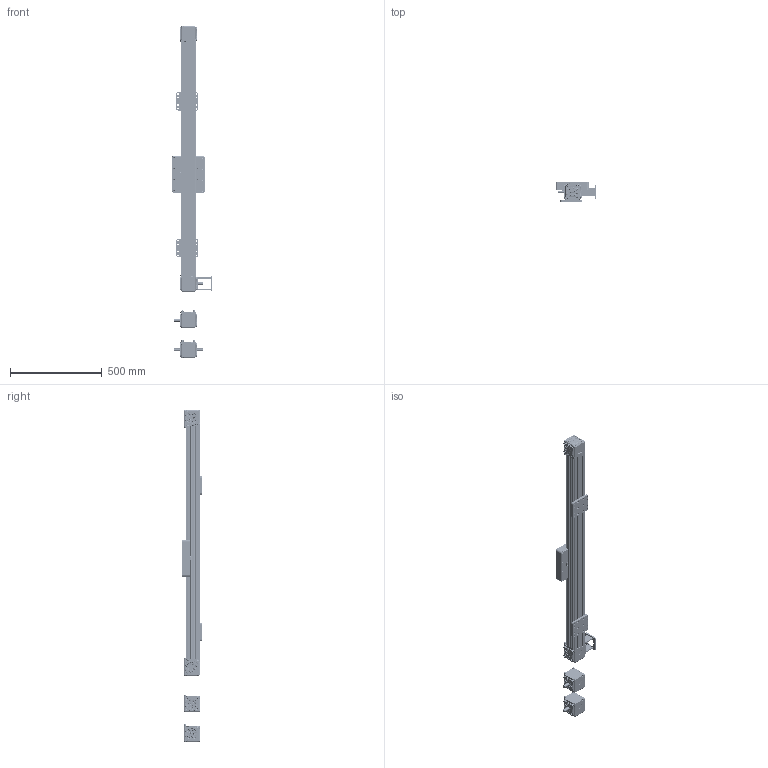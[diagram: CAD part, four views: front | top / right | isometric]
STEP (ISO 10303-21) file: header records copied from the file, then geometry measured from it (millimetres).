
FILE_DESCRIPTION (( 'STEP AP214' ), '1' );
FILE_NAME ('80C肮祭湍耀郪..STEP', '2022-10-22T03:06:46', ( '' ), ( '' ), 'SwSTEP 2.0', 'SolidWorks 2020', '' );
FILE_SCHEMA (( 'AUTOMOTIVE_DESIGN' ));
Length unit declared in the file: millimetre
Products named in the file (9): 80粣創釱(邧堤粣); 80粣創釱(衵堤粣); 80萇儂釱; 80肮祭湍倰第; 80粣創釱(祥堤粣); 80C賑怢; 80C肮祭湍耀郪.; 80C華褐; 80粣創釱(酘堤粣)
Assembly tree (9 placements, depth 2):
  80C肮祭湍耀郪.
    80肮祭湍倰第
    80粣創釱(祥堤粣)
    80粣創釱(酘堤粣)
    80C賑怢
    80C華褐  x2
    80萇儂釱
    80粣創釱(衵堤粣)
    80粣創釱(邧堤粣)
Bounding box: 222.5 x 111 x 1811.04 mm (x, y, z)
Volume: 10670547.5 mm3; surface area: 1103009 mm2
Topology: 9 solids, 75 shells, 8970 faces, 21519 edges, 12670 vertices
Faces by surface type: bspline 3132, cylinder 2407, plane 2230, cone 1191, torus 10
Entity records: 353575 total; most frequent: CARTESIAN_POINT 156285, ORIENTED_EDGE 42012, DIRECTION 35962, EDGE_CURVE 21006, AXIS2_PLACEMENT_3D 14107, VERTEX_POINT 12550, EDGE_LOOP 9292, ADVANCED_FACE 8896
